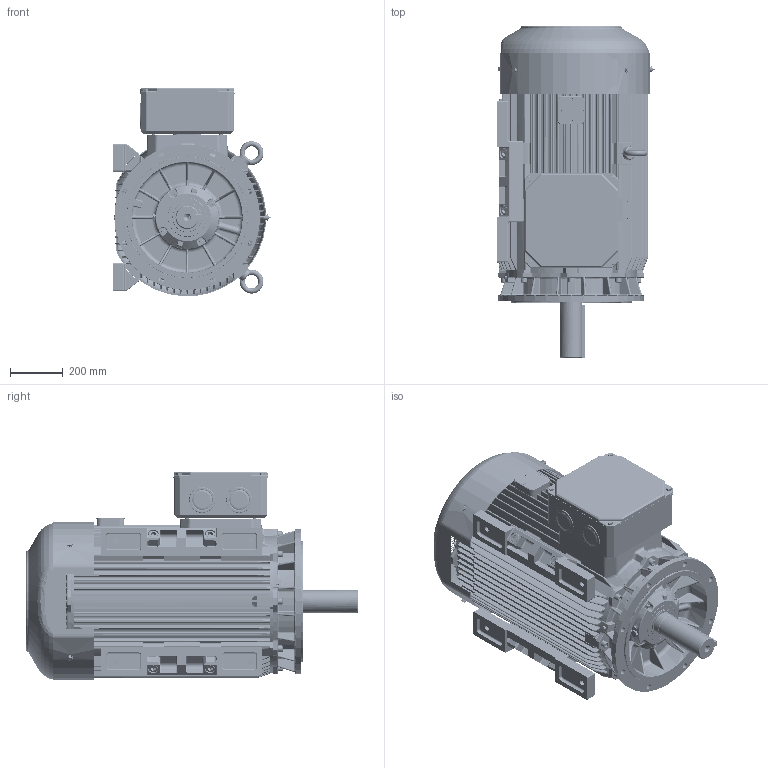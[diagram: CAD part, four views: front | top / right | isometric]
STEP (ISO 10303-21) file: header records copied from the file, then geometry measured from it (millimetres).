
FILE_DESCRIPTION(/* description */ ('Unknown','CAx-IF Rec.Pracs.---Representation and Presentation of Product Manufacturing Information (PMI)---4.0---2014-10-13','CAx-IF Rec.Pracs.---3D Tessellated Geometry---0.4---2014-09-14','2;1'),/* implementation_level */ '2;1');
FILE_NAME(/* name */ 'Silnik SIE447TDL4A',/* time_stamp */ '2024-07-08T09:55:34+02:00',/* author */ ('Unknown'),/* organization */ ('Unknown'),/* preprocessor_version */ 'ST-DEVELOPER v16.7',/* originating_system */ 'DEX',/* authorisation */ $);
FILE_SCHEMA (('AP242_MANAGED_MODEL_BASED_3D_ENGINEERING_MIM_LF { 1 0 10303 442 20130219 1 4 }'));
Products named in the file (1): Silnik SIE447TDL4A
Bounding box: 594.9 x 1253.96 x 787.58 mm (x, y, z)
Volume: 160148715.5 mm3; surface area: 12665653.5 mm2
Topology: 1 solids, 55 shells, 11414 faces, 30014 edges, 18713 vertices
Faces by surface type: plane 6098, cylinder 2528, bspline 1083, torus 925, cone 484, sphere 296
Full cylindrical faces by diameter (mm): 0.25 x1, 1.6 x2, 2.5 x3, 3 x1, 3.5 x4, 4.2 x2, 4.917 x2, 5 x15, 6 x3, 6.2 x14, 6.466 x8, 6.6 x4, 6.647 x12, 8 x21, 8.36 x2, 8.376 x4, 8.5 x4, 8.8 x1, 8.917 x4, 9 x12, 9.853 x4, 10 x12, 10.106 x8, 10.5 x4, 12 x12, 13 x8, 13.546 x8, 13.835 x9, 14 x15, 14.63 x4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
Entity records: 478961 total; most frequent: CARTESIAN_POINT 126074, ORIENTED_EDGE 57090, DIRECTION 53574, EDGE_CURVE 28545, VERTEX_POINT 18265, AXIS2_PLACEMENT_3D 18118, LINE 17338, VECTOR 17338
